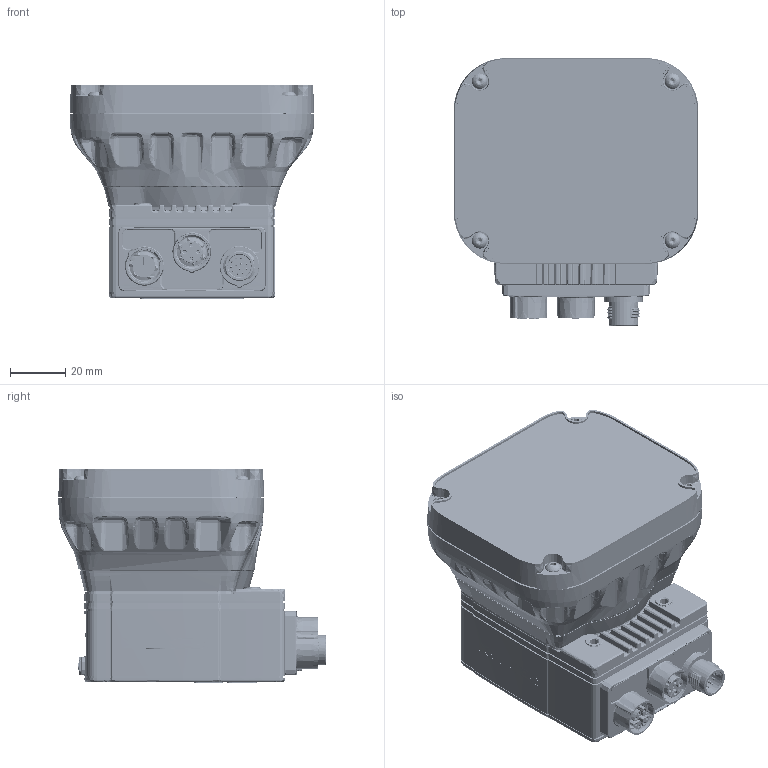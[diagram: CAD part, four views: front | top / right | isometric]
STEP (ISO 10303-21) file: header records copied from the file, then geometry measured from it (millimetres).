
FILE_DESCRIPTION (( 'STEP AP214' ), '1' );
FILE_NAME ('IS016-06_5-22-17.STEP', '2017-05-22T16:18:38', ( 'Cognoid' ), ( 'Microsoft' ), 'SwSTEP 2.0', 'SolidWorks 2017', '' );
FILE_SCHEMA (( 'AUTOMOTIVE_DESIGN' ));
Length unit declared in the file: millimetre
Products named in the file (1): IS016-06_5-22-17
Bounding box: 88.9 x 97.27 x 77.57 mm (x, y, z)
Volume: 217380.7 mm3; surface area: 112065.4 mm2
Topology: 6 solids, 129 shells, 19280 faces, 49992 edges, 32006 vertices
Faces by surface type: plane 9404, bspline 4786, cylinder 2998, cone 1434, torus 512, sphere 146
Entity records: 913946 total; most frequent: CARTESIAN_POINT 450014, ORIENTED_EDGE 99474, DIRECTION 75056, EDGE_CURVE 49737, VERTEX_POINT 32002, LINE 27868, VECTOR 27868, AXIS2_PLACEMENT_3D 23594
